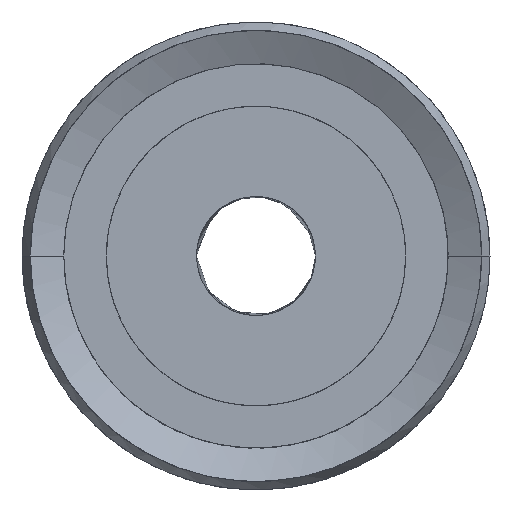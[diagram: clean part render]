
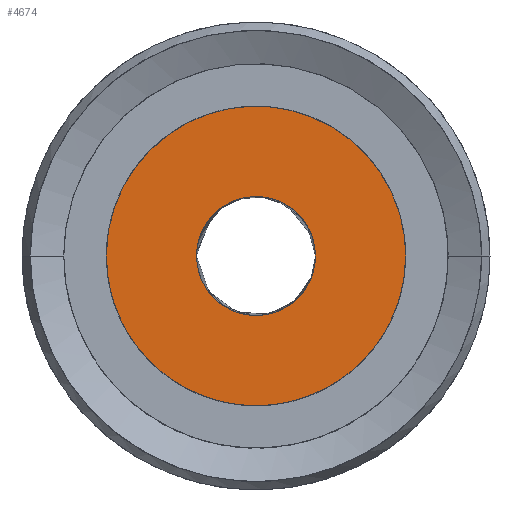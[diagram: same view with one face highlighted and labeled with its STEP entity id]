
A CAD part, left-side view. The second image highlights one B-rep face of the part: STEP entity #4674.
In plain terms, the highlighted planar face has unit normal (-1, 0, 0).
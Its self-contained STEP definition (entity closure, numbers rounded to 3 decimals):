
#17=FACE_BOUND('',#5205,.T.);
#4674=ADVANCED_FACE('',(#4938,#17),#11837,.T.);
#4938=FACE_OUTER_BOUND('',#5204,.T.);
#5204=EDGE_LOOP('',(#5537));
#5205=EDGE_LOOP('',(#5538));
#5537=ORIENTED_EDGE('',*,*,#9461,.T.);
#5538=ORIENTED_EDGE('',*,*,#9462,.T.);
#6518=PCURVE('',#11837,#7499);
#6519=PCURVE('',#11837,#7500);
#7499=DEFINITIONAL_REPRESENTATION('',(#10427),#25186);
#7500=DEFINITIONAL_REPRESENTATION('',(#10429),#25186);
#8480=SURFACE_CURVE('',#10426,(#6518),.PCURVE_S1.);
#8481=SURFACE_CURVE('',#10428,(#6519),.PCURVE_S1.);
#9461=EDGE_CURVE('',#10946,#10946,#8480,.T.);
#9462=EDGE_CURVE('',#10947,#10947,#8481,.T.);
#10426=(
BOUNDED_CURVE()
B_SPLINE_CURVE(2,(#13469,#13470,#13471,#13472,#13473,#13474,#13475,#13476,
#13477),.UNSPECIFIED.,.T.,.F.)
B_SPLINE_CURVE_WITH_KNOTS((3,2,2,2,3),(0.,1.571,3.142,
4.712,6.283),.UNSPECIFIED.)
CURVE()
GEOMETRIC_REPRESENTATION_ITEM()
RATIONAL_B_SPLINE_CURVE((1.,0.707,1.,0.707,1.,0.707,
1.,0.707,1.))
REPRESENTATION_ITEM('')
);
#10427=(
BOUNDED_CURVE()
B_SPLINE_CURVE(2,(#13478,#13479,#13480,#13481,#13482,#13483,#13484,#13485,
#13486),.UNSPECIFIED.,.T.,.F.)
B_SPLINE_CURVE_WITH_KNOTS((3,2,2,2,3),(0.,1.571,3.142,
4.712,6.283),.UNSPECIFIED.)
CURVE()
GEOMETRIC_REPRESENTATION_ITEM()
RATIONAL_B_SPLINE_CURVE((1.,0.707,1.,0.707,1.,0.707,
1.,0.707,1.))
REPRESENTATION_ITEM('')
);
#10428=(
BOUNDED_CURVE()
B_SPLINE_CURVE(2,(#13487,#13488,#13489,#13490,#13491,#13492,#13493,#13494,
#13495),.UNSPECIFIED.,.T.,.F.)
B_SPLINE_CURVE_WITH_KNOTS((3,2,2,2,3),(3.142,4.712,
6.283,7.854,9.425),.UNSPECIFIED.)
CURVE()
GEOMETRIC_REPRESENTATION_ITEM()
RATIONAL_B_SPLINE_CURVE((1.,0.707,1.,0.707,1.,0.707,
1.,0.707,1.))
REPRESENTATION_ITEM('')
);
#10429=(
BOUNDED_CURVE()
B_SPLINE_CURVE(2,(#13496,#13497,#13498,#13499,#13500,#13501,#13502,#13503,
#13504),.UNSPECIFIED.,.T.,.F.)
B_SPLINE_CURVE_WITH_KNOTS((3,2,2,2,3),(3.142,4.712,
6.283,7.854,9.425),.UNSPECIFIED.)
CURVE()
GEOMETRIC_REPRESENTATION_ITEM()
RATIONAL_B_SPLINE_CURVE((1.,0.707,1.,0.707,1.,0.707,
1.,0.707,1.))
REPRESENTATION_ITEM('')
);
#10946=VERTEX_POINT('',#13467);
#10947=VERTEX_POINT('',#13468);
#11837=PLANE('',#11902);
#11902=AXIS2_PLACEMENT_3D('',#13466,#11932,$);
#11932=DIRECTION('',(-1.,0.,0.));
#13466=CARTESIAN_POINT('',(0.,-10.,-62.));
#13467=CARTESIAN_POINT('',(0.,6.,-70.));
#13468=CARTESIAN_POINT('',(0.,-5.175,-70.));
#13469=CARTESIAN_POINT('',(0.,6.,-70.));
#13470=CARTESIAN_POINT('',(0.,6.,-78.));
#13471=CARTESIAN_POINT('',(0.,-2.,-78.));
#13472=CARTESIAN_POINT('',(0.,-10.,-78.));
#13473=CARTESIAN_POINT('',(0.,-10.,-70.));
#13474=CARTESIAN_POINT('',(0.,-10.,-62.));
#13475=CARTESIAN_POINT('',(0.,-2.,-62.));
#13476=CARTESIAN_POINT('',(0.,6.,-62.));
#13477=CARTESIAN_POINT('',(0.,6.,-70.));
#13478=CARTESIAN_POINT('',(1.,0.5));
#13479=CARTESIAN_POINT('',(1.,1.));
#13480=CARTESIAN_POINT('',(0.5,1.));
#13481=CARTESIAN_POINT('',(0.,1.));
#13482=CARTESIAN_POINT('',(0.,0.5));
#13483=CARTESIAN_POINT('',(0.,0.));
#13484=CARTESIAN_POINT('',(0.5,0.));
#13485=CARTESIAN_POINT('',(1.,0.));
#13486=CARTESIAN_POINT('',(1.,0.5));
#13487=CARTESIAN_POINT('',(0.,-5.175,-70.));
#13488=CARTESIAN_POINT('',(0.,-5.175,-73.175));
#13489=CARTESIAN_POINT('',(0.,-2.,-73.175));
#13490=CARTESIAN_POINT('',(0.,1.175,-73.175));
#13491=CARTESIAN_POINT('',(0.,1.175,-70.));
#13492=CARTESIAN_POINT('',(0.,1.175,-66.825));
#13493=CARTESIAN_POINT('',(0.,-2.,-66.825));
#13494=CARTESIAN_POINT('',(0.,-5.175,-66.825));
#13495=CARTESIAN_POINT('',(0.,-5.175,-70.));
#13496=CARTESIAN_POINT('',(0.302,0.5));
#13497=CARTESIAN_POINT('',(0.302,0.698));
#13498=CARTESIAN_POINT('',(0.5,0.698));
#13499=CARTESIAN_POINT('',(0.698,0.698));
#13500=CARTESIAN_POINT('',(0.698,0.5));
#13501=CARTESIAN_POINT('',(0.698,0.302));
#13502=CARTESIAN_POINT('',(0.5,0.302));
#13503=CARTESIAN_POINT('',(0.302,0.302));
#13504=CARTESIAN_POINT('',(0.302,0.5));
#25186=(
GEOMETRIC_REPRESENTATION_CONTEXT(2)
PARAMETRIC_REPRESENTATION_CONTEXT()
REPRESENTATION_CONTEXT('pspace','')
);
